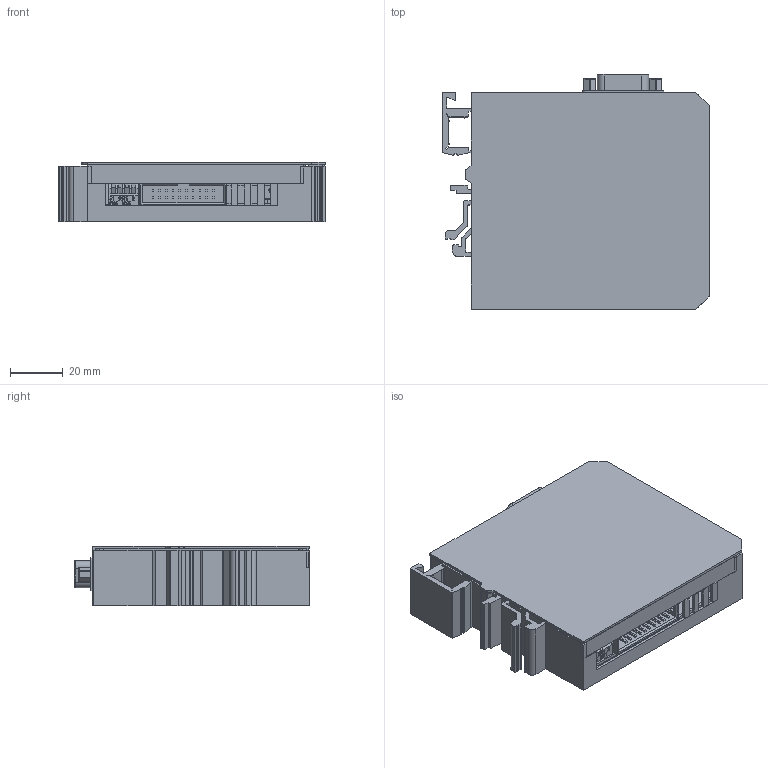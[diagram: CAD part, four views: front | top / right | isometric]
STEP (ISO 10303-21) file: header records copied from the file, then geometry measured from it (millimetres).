
FILE_DESCRIPTION (( 'STEP AP214' ), '1' );
FILE_NAME ('ﾋﾈﾐ-986ﾀ.STEP', '2017-05-23T08:22:09', ( '' ), ( '' ), 'SwSTEP 2.0', 'SolidWorks 2013', '' );
FILE_SCHEMA (( 'AUTOMOTIVE_DESIGN' ));
Length unit declared in the file: millimetre
Products named in the file (1): ﾋﾈﾐ-986ﾀ
Bounding box: 100.94 x 88.97 x 22.5 mm (x, y, z)
Volume: 49046.1 mm3; surface area: 76492 mm2
Topology: 43 solids, 43 shells, 4879 faces, 12620 edges, 7997 vertices
Faces by surface type: plane 2766, bspline 1281, cylinder 802, cone 18, torus 12
Entity records: 254058 total; most frequent: CARTESIAN_POINT 88803, ORIENTED_EDGE 24856, DIRECTION 19033, EDGE_CURVE 12428, VECTOR 8565, LINE 8565, VERTEX_POINT 7997, EDGE_LOOP 5493
